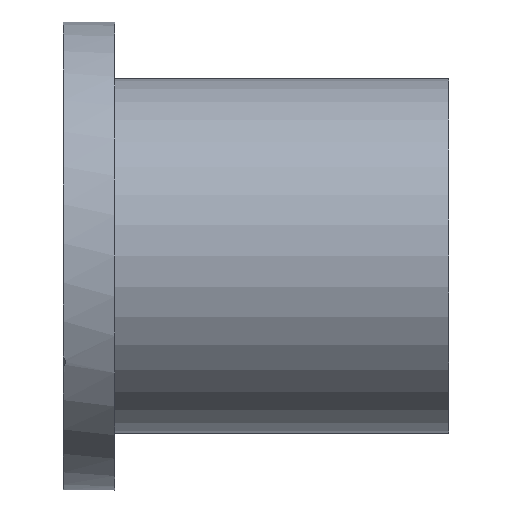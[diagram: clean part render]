
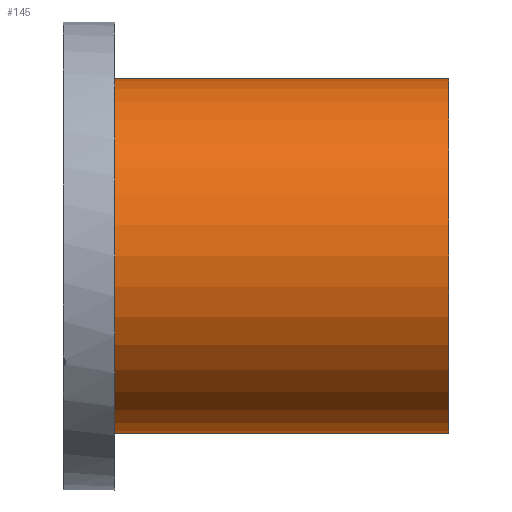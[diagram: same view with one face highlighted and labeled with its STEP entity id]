
A CAD part, front view. The second image highlights one B-rep face of the part: STEP entity #145.
In plain terms, the highlighted cylindrical face has radius 77 mm (diameter 154 mm), a full revolution.
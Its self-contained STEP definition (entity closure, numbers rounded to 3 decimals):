
#145 = ADVANCED_FACE( '', ( #291, #292 ), #293, .T. );
#291 = FACE_OUTER_BOUND( '', #515, .T. );
#292 = FACE_OUTER_BOUND( '', #516, .T. );
#293 = CYLINDRICAL_SURFACE( '', #517, 77. );
#515 = EDGE_LOOP( '', ( #709 ) );
#516 = EDGE_LOOP( '', ( #710 ) );
#517 = AXIS2_PLACEMENT_3D( '', #711, #712, #713 );
#709 = ORIENTED_EDGE( '', *, *, #979, .F. );
#710 = ORIENTED_EDGE( '', *, *, #980, .T. );
#711 = CARTESIAN_POINT( '', ( 157.5, 0., 0. ) );
#712 = DIRECTION( '', ( -1., 0., 0. ) );
#713 = DIRECTION( '', ( 0., 0., 1. ) );
#979 = EDGE_CURVE( '', #1086, #1086, #1087, .T. );
#980 = EDGE_CURVE( '', #1088, #1088, #1089, .T. );
#1086 = VERTEX_POINT( '', #1247 );
#1087 = CIRCLE( '', #1248, 77. );
#1088 = VERTEX_POINT( '', #1249 );
#1089 = CIRCLE( '', #1250, 77. );
#1247 = CARTESIAN_POINT( '', ( 0., 77., 0. ) );
#1248 = AXIS2_PLACEMENT_3D( '', #1482, #1483, #1484 );
#1249 = CARTESIAN_POINT( '', ( 157.5, 77., 0. ) );
#1250 = AXIS2_PLACEMENT_3D( '', #1485, #1486, #1487 );
#1482 = CARTESIAN_POINT( '', ( 0., 0., 0. ) );
#1483 = DIRECTION( '', ( -1., 0., 0. ) );
#1484 = DIRECTION( '', ( 0., 1., 0. ) );
#1485 = CARTESIAN_POINT( '', ( 157.5, 0., 0. ) );
#1486 = DIRECTION( '', ( -1., 0., 0. ) );
#1487 = DIRECTION( '', ( 0., 1., 0. ) );
